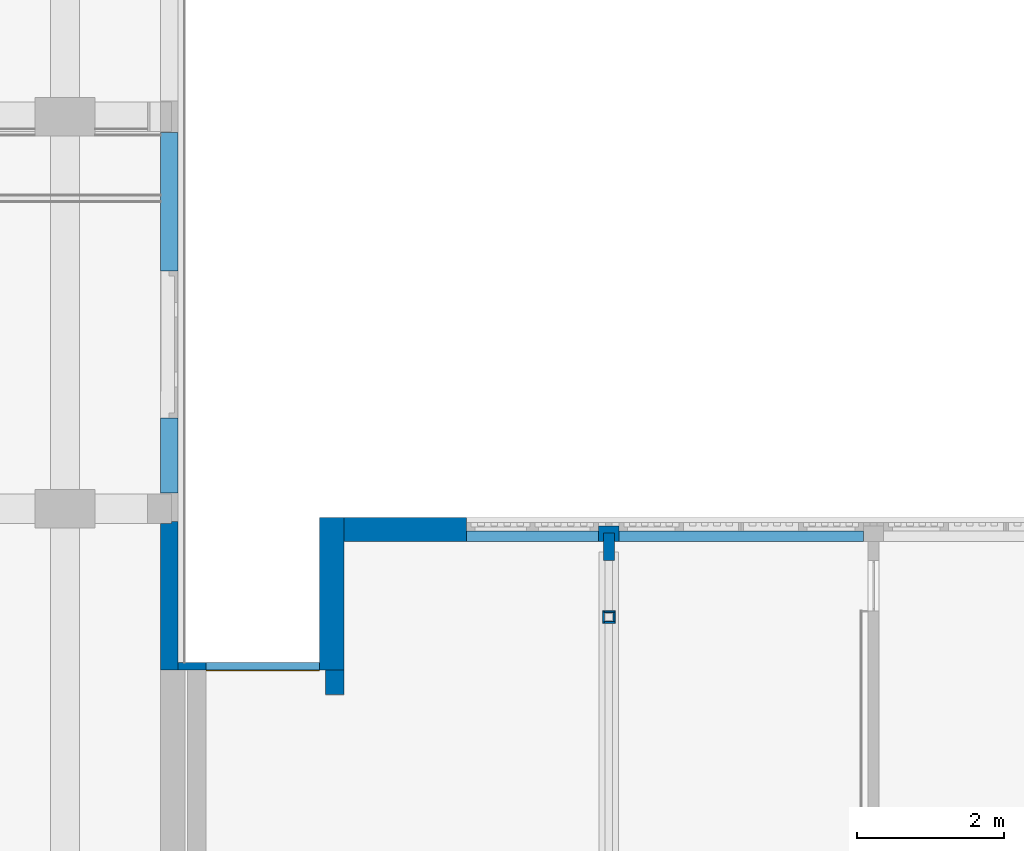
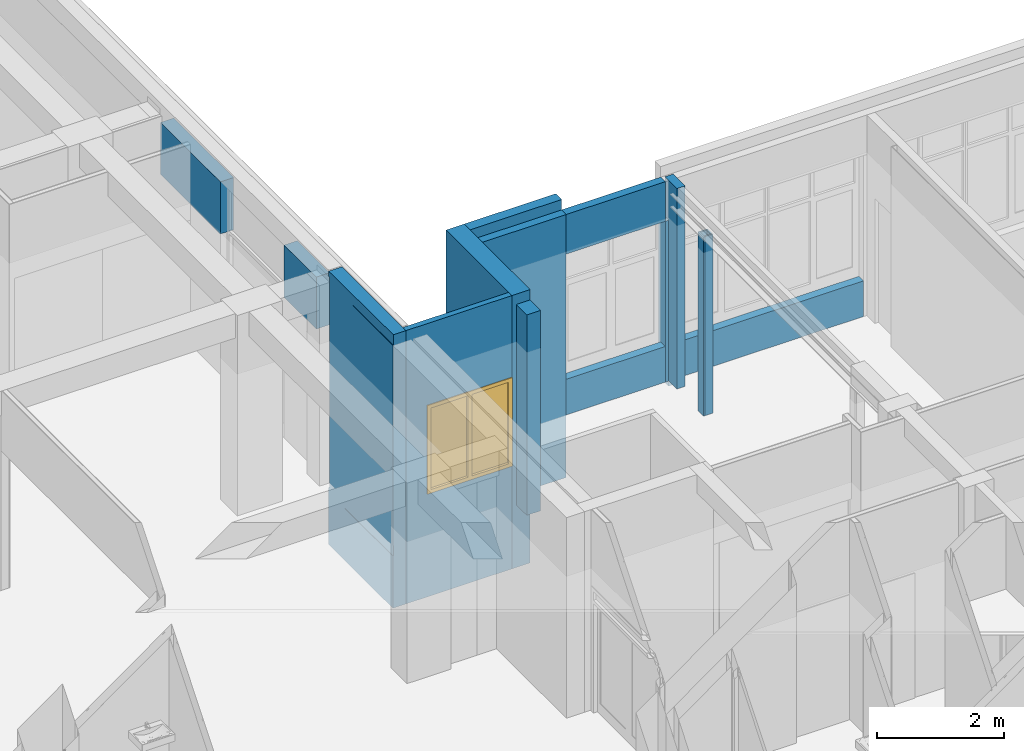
# One storey, part 89 of 135: 16 walls, 1 window, 1 opening.
"""IFC2X3 building model written with IfcOpenShell, lengths in millimetres."""

from ifc_helpers import new_model, entity, si_unit, converted_unit, derived_unit, money_unit, direction, frame, origin_with_axes, place, context, subcontext, project, spatial, open_shell, faceted_brep, surface_model, material, type_object, element, fill, save


model = new_model("IFC2X3")

# Units and contexts
model_context = context("Model", 3, precision=0.01, world=origin_with_axes(), true_north=direction((0.0, 1.0)))
body_context = subcontext(model_context, "Body", "Model", "MODEL_VIEW")
ifc_project = project(units=[si_unit("LENGTHUNIT", "METRE", prefix="MILLI"), si_unit("AREAUNIT", "SQUARE_METRE"), si_unit("VOLUMEUNIT", "CUBIC_METRE"), converted_unit("PLANEANGLEUNIT", "DEGREE", entity("IfcPlaneAngleMeasure", 0.0174532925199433), si_unit("PLANEANGLEUNIT", "RADIAN"), dimensions=[0, 0, 0, 0, 0, 0, 0]), money_unit("EUR"), converted_unit("TIMEUNIT", "Year", entity("IfcTimeMeasure", 31557600.0), si_unit("TIMEUNIT", "SECOND"), dimensions=[0, 0, 1, 0, 0, 0, 0]), si_unit("MASSUNIT", "GRAM", prefix="KILO"), si_unit("THERMODYNAMICTEMPERATUREUNIT", "DEGREE_CELSIUS"), si_unit("LUMINOUSINTENSITYUNIT", "LUMEN"), si_unit("ENERGYUNIT", "JOULE", prefix="MEGA"), derived_unit("THERMALCONDUCTANCEUNIT", [(si_unit("POWERUNIT", "WATT"), 1), (si_unit("LENGTHUNIT", "METRE"), -1), (si_unit("THERMODYNAMICTEMPERATUREUNIT", "KELVIN"), -1)]), derived_unit("SPECIFICHEATCAPACITYUNIT", [(si_unit("ENERGYUNIT", "JOULE"), 1), (si_unit("MASSUNIT", "GRAM", prefix="KILO"), -1), (si_unit("THERMODYNAMICTEMPERATUREUNIT", "KELVIN"), -1)]), derived_unit("MASSDENSITYUNIT", [(si_unit("MASSUNIT", "GRAM", prefix="KILO"), 1), (si_unit("VOLUMEUNIT", "CUBIC_METRE"), -1)])], contexts=[model_context])

# Site, building, storey
site_placement = place(None, origin_with_axes())
site = spatial("IfcSite", under=ifc_project, at=site_placement, Name="Site", CompositionType="ELEMENT")
building_placement = place(site_placement, origin_with_axes())
building = spatial("IfcBuilding", under=site, at=building_placement, Name="Naam gebouw", CompositionType="ELEMENT")
storey_placement = place(building_placement, origin_with_axes())
storey = spatial("IfcBuildingStorey", under=building, at=storey_placement, Name="Begane grond N", CompositionType="ELEMENT", Elevation=0.0)

# Wall
ifc_material_1 = material(Name="ALG - CONSTRUCTIEF")
wall_type_1 = type_object("IfcWallType", Name="ALG - CONSTRUCTIEF 150", PredefinedType="NOTDEFINED")
wall_1_placement = place(storey_placement, frame((36000.0, 27250.91242510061, -100.0), z_axis=(0.0, 0.0, 1.0), x_axis=(0.0, 1.0, 0.0)))
element("IfcWall", 1, at=wall_1_placement, inside=storey, type_object=wall_type_1, material=ifc_material_1, Name="_Wand-x", context=body_context, shape_type="Brep", body=[
    faceted_brep([(375.0, 75.00000000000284, 0.0), (375.0, 75.00000000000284, 3950.0), (375.0, -75.00000000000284, 3950.0), (375.0, -75.00000000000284, 0.0), (0.0, 75.00000000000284, 100.0), (0.0, 75.00000000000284, 3950.0), (255.0000000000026, 75.00000000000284, 0.0), (255.0000000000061, 75.00000000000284, 100.0), (0.0, -75.00000000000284, 3950.0), (0.0, -75.00000000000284, 100.0), (255.0000000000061, -75.00000000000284, 100.0), (255.0000000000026, -75.00000000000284, 0.0)], [[[0, 1, 2, 3]], [[4, 5, 1, 0, 6, 7]], [[5, 8, 2, 1]], [[3, 2, 8, 9, 10, 11]], [[3, 11, 6, 0]], [[9, 8, 5, 4]], [[6, 11, 10, 7]], [[7, 10, 9, 4]]]),
])

# Wall, opening, window
wall_type_2 = type_object("IfcWallType", Name="ALG - CONSTRUCTIEF 100", PredefinedType="NOTDEFINED")
wall_2_placement = place(storey_placement, frame((32399.99999999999, 25760.89702607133, -1200.0), z_axis=(0.0, 0.0, 1.0), x_axis=(-1.0, 0.0, 0.0)))
wall_2 = element("IfcWall", 2, at=wall_2_placement, inside=storey, type_object=wall_type_2, material=ifc_material_1, Name="_Wand-x", context=body_context, shape_type="Brep", body=[
    faceted_brep([(329.9999999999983, 0.0, 3683.5), (329.9999999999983, -100.0000000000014, 3683.5), (329.9999999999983, -100.0000000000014, 5250.000000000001), (329.9999999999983, 0.0, 5250.000000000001), (1875.0, -100.0000000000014, 3683.5), (1875.0, 0.0, 3683.5), (1875.0, -100.0000000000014, 1983.000000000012), (329.9999999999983, -100.0000000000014, 1983.000000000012), (329.9999999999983, -100.0000000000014, 0.0), (2253.999999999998, -100.0000000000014, 0.0), (2253.999999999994, -100.0000000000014, 5250.000000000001), (2253.999999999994, 0.0, 5250.000000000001), (2253.999999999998, 0.0, 1200.0), (2253.999999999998, 0.0, 0.0), (329.9999999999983, 0.0, 0.0), (329.9999999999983, 0.0, 1983.000000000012), (1875.0, 0.0, 1983.000000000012)], [[[0, 1, 2, 3]], [[4, 1, 0, 5]], [[6, 7, 8, 9, 10, 2, 1, 4]], [[2, 10, 11, 3]], [[5, 0, 3, 11, 12, 13, 14, 15, 16]], [[6, 4, 5, 16]], [[15, 7, 6, 16]], [[7, 15, 14, 8]], [[14, 13, 9, 8]], [[10, 9, 13, 12, 11]]]),
])
opening_placement = place(wall_2_placement, frame((1102.499999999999, 0.0, 1983.000000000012), z_axis=(0.0, 0.0, 1.0), x_axis=(1.0, 0.0, 0.0)))
opening = element("IfcOpeningElement", 3, at=opening_placement, cuts=wall_2, Name="_Merk-004", context=body_context, shape_type="Brep", body=[
    faceted_brep([(772.5000000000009, 1.000000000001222, 1700.499999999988), (772.5000000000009, 1.000000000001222, 0.0), (-772.5000000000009, 1.000000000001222, 0.0), (-772.5000000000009, 1.000000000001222, 1700.499999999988), (772.5000000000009, -101.0000000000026, 1700.499999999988), (772.5000000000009, -101.0000000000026, 0.0), (-772.5000000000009, -101.0000000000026, 0.0), (-772.5000000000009, -101.0000000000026, 1700.499999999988)], [[[0, 1, 2, 3]], [[4, 5, 1, 0]], [[5, 6, 2, 1]], [[6, 7, 3, 2]], [[7, 4, 0, 3]], [[6, 5, 4, 7]]]),
])
window_style = type_object("IfcWindowStyle", Name="R2 bl ol 26", ConstructionType="NOTDEFINED", OperationType="DOUBLE_PANEL_VERTICAL", ParameterTakesPrecedence=False, Sizeable=False)
window_placement = place(opening_placement, frame((-772.5000000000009, 0.0, 0.0), z_axis=(0.0, 0.0, 1.0), x_axis=(1.0, 0.0, 0.0)))
window = element("IfcWindow", 4, at=window_placement, inside=storey, type_object=window_style, Name="_Merk-004", ObjectType="WINDOW", OverallHeight=1700.5, OverallWidth=1545.0, context=body_context, shape_type="SurfaceModel", body=[
    faceted_brep([(1478.000000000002, -100.0000000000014, 1633.499999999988), (1545.000000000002, -100.0000000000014, 1633.499999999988), (1545.000000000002, 13.99999999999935, 1633.499999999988), (1478.000000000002, 13.99999999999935, 1633.499999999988), (1478.000000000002, -100.0000000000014, 66.99999999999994), (1545.000000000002, -100.0000000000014, 66.99999999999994), (1545.000000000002, 13.99999999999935, 66.99999999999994), (1478.000000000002, 13.99999999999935, 66.99999999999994)], [[[0, 1, 2, 3]], [[0, 4, 5, 1]], [[1, 5, 6, 2]], [[3, 2, 6, 7]], [[4, 0, 3, 7]], [[5, 4, 7, 6]]]),
    faceted_brep([(67.00000000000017, -100.0000000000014, 66.99999999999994), (0.0, -100.0000000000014, 66.99999999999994), (0.0, 13.99999999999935, 66.99999999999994), (67.00000000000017, 13.99999999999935, 66.99999999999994), (67.00000000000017, -100.0000000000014, 1633.499999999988), (0.0, -100.0000000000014, 1633.499999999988), (0.0, 13.99999999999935, 1633.499999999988), (67.00000000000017, 13.99999999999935, 1633.499999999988)], [[[0, 1, 2, 3]], [[0, 4, 5, 1]], [[1, 5, 6, 2]], [[3, 2, 6, 7]], [[4, 0, 3, 7]], [[5, 4, 7, 6]]]),
    faceted_brep([(806.0000000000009, -100.0000000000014, 66.99999999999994), (739.0000000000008, -100.0000000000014, 66.99999999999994), (739.0000000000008, 13.99999999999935, 66.99999999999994), (806.0000000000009, 13.99999999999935, 66.99999999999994), (806.0000000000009, -100.0000000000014, 1633.499999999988), (739.0000000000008, -100.0000000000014, 1633.499999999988), (739.0000000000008, 13.99999999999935, 1633.499999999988), (806.0000000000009, 13.99999999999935, 1633.499999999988)], [[[0, 1, 2, 3]], [[0, 4, 5, 1]], [[1, 5, 6, 2]], [[3, 2, 6, 7]], [[4, 0, 3, 7]], [[5, 4, 7, 6]]]),
    faceted_brep([(1478.000000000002, -100.0000000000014, 66.99999999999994), (1545.000000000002, -100.0000000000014, 66.99999999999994), (1545.000000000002, 13.99999999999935, 66.99999999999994), (1478.000000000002, 13.99999999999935, 66.99999999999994), (806.0000000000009, -100.0000000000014, 66.99999999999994), (739.0000000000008, -100.0000000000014, 66.99999999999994), (67.00000000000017, -100.0000000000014, 66.99999999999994), (0.0, -100.0000000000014, 66.99999999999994), (0.0, -100.0000000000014, 0.0), (1545.000000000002, -100.0000000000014, 0.0), (1545.000000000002, 13.99999999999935, 0.0), (0.0, 13.99999999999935, 0.0), (0.0, 13.99999999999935, 66.99999999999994), (67.00000000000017, 13.99999999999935, 66.99999999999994), (739.0000000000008, 13.99999999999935, 66.99999999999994), (806.0000000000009, 13.99999999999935, 66.99999999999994)], [[[0, 1, 2, 3]], [[0, 4, 5, 6, 7, 8, 9, 1]], [[1, 9, 10, 2]], [[3, 2, 10, 11, 12, 13, 14, 15]], [[4, 0, 3, 15]], [[5, 4, 15, 14]], [[6, 5, 14, 13]], [[7, 6, 13, 12]], [[8, 7, 12, 11]], [[9, 8, 11, 10]]]),
    faceted_brep([(806.0000000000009, -100.0000000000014, 1633.499999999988), (739.0000000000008, -100.0000000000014, 1633.499999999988), (739.0000000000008, 13.99999999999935, 1633.499999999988), (806.0000000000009, 13.99999999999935, 1633.499999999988), (1478.000000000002, -100.0000000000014, 1633.499999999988), (1545.000000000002, -100.0000000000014, 1633.499999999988), (1545.000000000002, -100.0000000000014, 1700.499999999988), (0.0, -100.0000000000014, 1700.499999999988), (0.0, -100.0000000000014, 1633.499999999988), (67.00000000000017, -100.0000000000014, 1633.499999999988), (67.00000000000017, 13.99999999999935, 1633.499999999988), (0.0, 13.99999999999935, 1633.499999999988), (0.0, 13.99999999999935, 1700.499999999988), (1545.000000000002, 13.99999999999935, 1700.499999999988), (1545.000000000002, 13.99999999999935, 1633.499999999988), (1478.000000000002, 13.99999999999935, 1633.499999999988)], [[[0, 1, 2, 3]], [[0, 4, 5, 6, 7, 8, 9, 1]], [[1, 9, 10, 2]], [[3, 2, 10, 11, 12, 13, 14, 15]], [[4, 0, 3, 15]], [[5, 4, 15, 14]], [[6, 5, 14, 13]], [[7, 6, 13, 12]], [[8, 7, 12, 11]], [[9, 8, 11, 10]]]),
    surface_model("IfcShellBasedSurfaceModel", [(1478.000000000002, -50.00000000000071, 66.99999999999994), (1478.000000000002, -50.00000000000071, 1633.499999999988), (806.0000000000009, -50.00000000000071, 1633.499999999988), (806.0000000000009, -50.00000000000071, 66.99999999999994)], [open_shell([[[0, 1, 2, 3]]])]),
    surface_model("IfcShellBasedSurfaceModel", [(1478.000000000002, -30.00000000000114, 66.99999999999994), (806.0000000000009, -30.00000000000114, 66.99999999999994), (806.0000000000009, -30.00000000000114, 1633.499999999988), (1478.000000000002, -30.00000000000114, 1633.499999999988)], [open_shell([[[0, 1, 2, 3]]])]),
    surface_model("IfcShellBasedSurfaceModel", [(739.0000000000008, -50.00000000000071, 66.99999999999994), (739.0000000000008, -50.00000000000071, 1633.499999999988), (67.00000000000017, -50.00000000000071, 1633.499999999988), (67.00000000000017, -50.00000000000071, 66.99999999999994)], [open_shell([[[0, 1, 2, 3]]])]),
    surface_model("IfcShellBasedSurfaceModel", [(739.0000000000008, -30.00000000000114, 66.99999999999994), (67.00000000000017, -30.00000000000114, 66.99999999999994), (67.00000000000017, -30.00000000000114, 1633.499999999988), (739.0000000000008, -30.00000000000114, 1633.499999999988)], [open_shell([[[0, 1, 2, 3]]])]),
])
fill(opening, window)

# Walls
wall_type_3 = type_object("IfcWallType", Name="ALG - CONSTRUCTIEF 240", PredefinedType="NOTDEFINED")
wall_3_placement = place(storey_placement, frame((29906.0, 27780.91242510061, -1200.0), z_axis=(0.0, 0.0, 1.0), x_axis=(0.0, -1.0, 0.0)))
element("IfcWall", 5, at=wall_3_placement, inside=storey, type_object=wall_type_3, material=ifc_material_1, Name="_Wand-x", context=body_context, shape_type="Brep", body=[
    faceted_brep([(0.0, 149.9999999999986, 5150.0), (0.0, 0.0, 5150.0), (0.0, 0.0, 5250.000000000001), (0.0, 240.000000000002, 5250.000000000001), (0.0, 239.9999999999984, 0.0), (0.0, 0.0, 0.0), (0.0, 0.0, 1000.0), (0.0, 0.0, 1100.0), (0.0, 149.9999999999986, 1100.0), (25.00000000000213, 0.1303475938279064, 5150.0), (25.00000000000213, 149.9999999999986, 5150.0), (25.00000000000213, 0.1303475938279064, 5050.000000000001), (2020.015399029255, 10.53216587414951, 5050.000000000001), (2020.015399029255, 10.53216587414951, 5250.000000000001), (2020.01539902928, 240.000000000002, 5250.000000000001), (2020.01539902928, 239.9999999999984, 1200.0), (2020.01539902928, 239.9999999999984, 0.0), (2020.01539902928, 0.0, 0.0), (2020.01539902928, 0.0, 1000.0), (25.00000000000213, 0.130347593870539, 1200.0), (25.00000000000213, 0.130347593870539, 1100.0), (2020.01539902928, 10.53216587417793, 1000.0), (2020.01539902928, 10.53216587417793, 1200.0), (25.00000000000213, 149.9999999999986, 1100.0), (25.00000000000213, 0.0, 5050.000000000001), (25.00000000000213, 0.0, 1200.0), (2020.01539902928, 0.0, 5050.000000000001), (2020.01539902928, 0.0, 1200.0)], [[[0, 1, 2, 3, 4, 5, 6, 7, 8]], [[9, 1, 0, 10]], [[1, 9, 11, 12, 13, 2]], [[13, 14, 3, 2]], [[15, 16, 4, 3, 14]], [[4, 16, 17, 5]], [[6, 5, 17, 18]], [[19, 20, 7, 6, 21, 22]], [[23, 8, 7, 20]], [[10, 0, 8, 23]], [[24, 11, 9, 10, 23, 20, 19, 25]], [[26, 12, 11, 24]], [[15, 14, 13, 12, 26, 27, 22, 21, 18, 17, 16]], [[18, 21, 6]], [[27, 25, 19, 22]], [[24, 25, 27, 26]]]),
])
wall_type_4 = type_object("IfcWallType", Name="ALG - CONSTRUCTIEF 330", PredefinedType="NOTDEFINED")
wall_4_placement = place(storey_placement, frame((32399.99999999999, 27505.91242510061, -1200.0), z_axis=(0.0, 0.0, 1.0), x_axis=(0.0, -1.0, 0.0)))
element("IfcWall", 6, at=wall_4_placement, inside=storey, type_object=wall_type_4, material=ifc_material_1, Name="_Wand-x", context=body_context, shape_type="Brep", body=[
    faceted_brep([(1745.015399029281, -329.9999999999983, 5250.000000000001), (1745.015399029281, 0.0, 5250.000000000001), (-329.9999999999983, 0.0, 5250.000000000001), (-329.9999999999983, -329.9999999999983, 5250.000000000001), (1745.015399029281, -329.9999999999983, 0.0), (1745.015399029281, 0.0, 0.0), (-329.9999999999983, 0.0, 0.0), (-329.9999999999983, -329.9999999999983, 0.0)], [[[0, 1, 2, 3]], [[1, 0, 4, 5]], [[1, 5, 6, 2]], [[7, 3, 2, 6]], [[4, 0, 3, 7]], [[5, 4, 7, 6]]]),
])
wall_5_placement = place(storey_placement, frame((34062.49999999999, 27505.91242510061, -1200.0), z_axis=(0.0, 0.0, 1.0), x_axis=(-1.0, 0.0, 0.0)))
element("IfcWall", 7, at=wall_5_placement, inside=storey, type_object=wall_type_4, material=ifc_material_1, Name="_Wand-x", context=body_context, shape_type="Brep", body=[
    faceted_brep([(1662.499999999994, -329.9999999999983, 5250.000000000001), (1662.500000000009, -145.9999999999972, 5250.000000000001), (0.0, -145.9999999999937, 5250.000000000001), (0.0, -329.9999999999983, 5250.000000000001), (1662.500000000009, 0.0, 5050.000000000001), (1662.500000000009, -145.9999999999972, 5050.000000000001), (1662.499999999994, -330.0000000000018, 0.0), (1662.499999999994, 0.0, 0.0), (0.0, -145.9999999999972, 5050.000000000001), (0.0, 0.0, 5050.000000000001), (0.0, 0.0, 0.0), (0.0, -329.9999999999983, 0.0)], [[[0, 1, 2, 3]], [[4, 5, 1, 0, 6, 7]], [[5, 8, 2, 1]], [[2, 8, 9, 10, 11, 3]], [[3, 11, 6, 0]], [[4, 9, 8, 5]], [[11, 10, 7, 6]], [[10, 9, 4, 7]]]),
])
wall_type_5 = type_object("IfcWallType", Name="ALG - CONSTRUCTIEF 250", PredefinedType="NOTDEFINED")
wall_6_placement = place(storey_placement, frame((32274.99999999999, 25430.91242510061, -100.0), z_axis=(0.0, 0.0, 1.0), x_axis=(0.0, 1.0, 0.0)))
element("IfcWall", 8, at=wall_6_placement, inside=storey, type_object=wall_type_5, material=ifc_material_1, Name="_Wand-x", context=body_context, shape_type="Brep", body=[
    faceted_brep([(329.9846009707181, 125.0, 100.0), (329.984600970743, 125.0, 3950.0), (329.984600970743, -124.9999999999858, 3950.0), (329.9846009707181, -125.0, 100.0), (0.0, 125.0, 100.0), (0.0, 125.0, 3950.0), (0.0, -125.0, 3950.0), (0.0, -125.0, 100.0)], [[[0, 1, 2, 3]], [[4, 5, 1, 0]], [[5, 6, 2, 1]], [[3, 2, 6, 7]], [[4, 0, 3, 7]], [[7, 6, 5, 4]]]),
])
wall_type_6 = type_object("IfcWallType", Name="ALG - CONSTRUCTIEF 146", PredefinedType="NOTDEFINED")
wall_7_placement = place(storey_placement, frame((35862.49999999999, 27505.91242510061, 3090.0), z_axis=(0.0, 0.0, 1.0), x_axis=(-1.0, 0.0, 0.0)))
element("IfcWall", 9, at=wall_7_placement, inside=storey, type_object=wall_type_6, material=ifc_material_1, Name="_Wand-x", context=body_context, shape_type="Brep", body=[
    faceted_brep([(0.0, -146.0000000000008, 760.0000000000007), (1800.000000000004, -146.0000000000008, 760.0000000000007), (1800.000000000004, 0.0, 760.0000000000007), (0.0, 0.0, 760.0000000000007), (0.0, -146.0000000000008, 0.0), (1800.000000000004, -146.0000000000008, 0.0), (1800.000000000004, 0.0, 0.0), (0.0, 0.0, 0.0)], [[[0, 1, 2, 3]], [[4, 5, 1, 0]], [[2, 1, 5, 6]], [[3, 2, 6, 7]], [[4, 0, 3, 7]], [[7, 6, 5, 4]]]),
])
wall_8_placement = place(storey_placement, frame((35862.49999999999, 27505.91242510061, 0.0), z_axis=(0.0, 0.0, 1.0), x_axis=(-1.0, 0.0, 0.0)))
element("IfcWall", 10, at=wall_8_placement, inside=storey, type_object=wall_type_6, material=ifc_material_1, Name="_Wand-x", context=body_context, shape_type="Brep", body=[
    faceted_brep([(0.0, -146.0000000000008, 685.2268951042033), (1800.000000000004, -146.0000000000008, 685.2268951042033), (1800.000000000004, 0.0, 685.2268951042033), (0.0, 0.0, 685.2268951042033), (0.0, -146.0000000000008, 0.0), (1800.000000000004, -146.0000000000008, 0.0), (1800.000000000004, 0.0, 0.0), (0.0, 0.0, 0.0)], [[[0, 1, 2, 3]], [[4, 5, 1, 0]], [[2, 1, 5, 6]], [[3, 2, 6, 7]], [[4, 0, 3, 7]], [[7, 6, 5, 4]]]),
])
wall_9_placement = place(storey_placement, frame((39462.5, 27505.91242510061, 0.0), z_axis=(0.0, 0.0, 1.0), x_axis=(-1.0, 0.0, 0.0)))
element("IfcWall", 11, at=wall_9_placement, inside=storey, type_object=wall_type_6, material=ifc_material_1, Name="_Wand-x", context=body_context, shape_type="Brep", body=[
    faceted_brep([(0.0, -146.0000000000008, 685.2268951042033), (3324.999999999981, -146.0000000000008, 685.2268951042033), (3324.999999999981, 0.0, 685.2268951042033), (0.0, 0.0, 685.2268951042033), (0.0, -146.0000000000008, 0.0), (3324.999999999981, -146.0000000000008, 0.0), (3324.999999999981, 0.0, 0.0), (0.0, 0.0, 0.0)], [[[0, 1, 2, 3]], [[4, 5, 1, 0]], [[2, 1, 5, 6]], [[3, 2, 6, 7]], [[4, 0, 3, 7]], [[7, 6, 5, 4]]]),
])
ifc_material_2 = material(Name="Gipsplaat")
wall_type_7 = type_object("IfcWallType", Name="Gipsplaat 25", PredefinedType="NOTDEFINED")
wall_10_placement = place(storey_placement, frame((35915.0, 26565.9124251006, 0.0), z_axis=(0.0, 0.0, 1.0), x_axis=(1.0, 0.0, 0.0)))
element("IfcWall", 12, at=wall_10_placement, inside=storey, type_object=wall_type_7, material=ifc_material_2, Name="_Wand-x", context=body_context, shape_type="Brep", body=[
    faceted_brep([(170.0000000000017, -24.99999999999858, 3439.999999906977), (170.0000000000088, 0.0, 3439.999999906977), (24.99999999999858, 0.0, 3439.999999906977), (24.99999999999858, -24.99999999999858, 3439.999999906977), (170.0000000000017, -24.99999999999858, 0.0), (170.0000000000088, 0.0, 0.0), (24.99999999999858, 0.0, 0.0), (24.99999999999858, -24.99999999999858, 0.0)], [[[0, 1, 2, 3]], [[1, 0, 4, 5]], [[1, 5, 6, 2]], [[7, 3, 2, 6]], [[4, 0, 3, 7]], [[5, 4, 7, 6]]]),
])
wall_11_placement = place(storey_placement, frame((35915.0, 26395.91242510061, 0.0), z_axis=(0.0, 0.0, 1.0), x_axis=(0.0, 1.0, 0.0)))
element("IfcWall", 13, at=wall_11_placement, inside=storey, type_object=wall_type_7, material=ifc_material_2, Name="_Wand-x", context=body_context, shape_type="Brep", body=[
    faceted_brep([(169.999999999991, -24.99999999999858, 3439.999999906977), (169.999999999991, 0.0, 3439.999999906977), (0.0, 0.0, 3439.999999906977), (0.0, -24.99999999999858, 3439.999999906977), (169.999999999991, -24.99999999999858, 0.0), (169.999999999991, 0.0, 0.0), (0.0, 0.0, 0.0), (0.0, -24.99999999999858, 0.0)], [[[0, 1, 2, 3]], [[1, 0, 4, 5]], [[1, 5, 6, 2]], [[7, 3, 2, 6]], [[4, 0, 3, 7]], [[5, 4, 7, 6]]]),
])
wall_12_placement = place(storey_placement, frame((36084.99999999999, 26395.9124251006, 0.0), z_axis=(0.0, 0.0, 1.0), x_axis=(0.0, 1.0, 0.0)))
element("IfcWall", 14, at=wall_12_placement, inside=storey, type_object=wall_type_7, material=ifc_material_2, Name="_Wand-x", context=body_context, shape_type="Brep", body=[
    faceted_brep([(145.0000000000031, 25.00000000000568, 0.0), (145.0000000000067, 0.0, 0.0), (24.99999999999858, 0.0, 0.0), (24.99999999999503, 24.99999999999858, 0.0), (145.0000000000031, 25.00000000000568, 3439.999999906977), (145.0000000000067, 0.0, 3439.999999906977), (24.99999999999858, 0.0, 3439.999999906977), (24.99999999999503, 24.99999999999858, 3439.999999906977)], [[[0, 1, 2, 3]], [[1, 0, 4, 5]], [[1, 5, 6, 2]], [[7, 3, 2, 6]], [[4, 0, 3, 7]], [[5, 4, 7, 6]]]),
])
wall_13_placement = place(storey_placement, frame((35915.0, 26395.91242510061, 0.0), z_axis=(0.0, 0.0, 1.0), x_axis=(1.0, 0.0, 0.0)))
element("IfcWall", 15, at=wall_13_placement, inside=storey, type_object=wall_type_7, material=ifc_material_2, Name="_Wand-x", context=body_context, shape_type="Brep", body=[
    faceted_brep([(169.9999999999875, 25.00000000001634, 0.0), (169.9999999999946, 0.0, 0.0), (24.99999999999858, 0.0, 0.0), (24.99999999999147, 25.00000000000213, 0.0), (169.9999999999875, 25.00000000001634, 3439.999999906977), (169.9999999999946, 0.0, 3439.999999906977), (24.99999999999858, 0.0, 3439.999999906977), (24.99999999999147, 25.00000000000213, 3439.999999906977)], [[[0, 1, 2, 3]], [[1, 0, 4, 5]], [[1, 5, 6, 2]], [[7, 3, 2, 6]], [[4, 0, 3, 7]], [[5, 4, 7, 6]]]),
])
ifc_material_3 = material(Name="ALG - GEVEL")
wall_type_8 = type_object("IfcWallType", Name="ALG - GEVEL 260", PredefinedType="NOTDEFINED")
wall_14_placement = place(storey_placement, frame((36137.49999999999, 27765.91242510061, 0.0), z_axis=(0.0, 0.0, 1.0), x_axis=(-1.0, 0.0, 0.0)))
element("IfcWall", 16, at=wall_14_placement, inside=storey, type_object=wall_type_8, material=ifc_material_3, Name="_Wand-x", context=body_context, shape_type="Brep", body=[
    faceted_brep([(0.0, 43.99999999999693, 3090.000000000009), (0.0, 43.99999999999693, 0.0), (275.0000000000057, 43.99999999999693, 0.0), (275.0000000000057, 43.99999999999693, 3090.000000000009), (0.0, 260.0000000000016, 0.0), (0.0, 260.0000000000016, 3090.0), (275.0000000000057, 260.0000000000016, 0.0), (275.0000000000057, 260.0000000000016, 3090.0)], [[[0, 1, 2, 3]], [[4, 1, 0, 5]], [[2, 1, 4, 6]], [[7, 3, 2, 6]], [[0, 3, 7, 5]], [[4, 5, 7, 6]]]),
])
ifc_material_4 = material(Name="Steen - Betonblok")
wall_type_9 = type_object("IfcWallType", Name="Steen - Betonblok 240", PredefinedType="NOTDEFINED")
wall_15_placement = place(storey_placement, frame((30145.99999999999, 29185.91242510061, 2700.0), z_axis=(0.0, 0.0, 1.0), x_axis=(0.0, -1.0, 0.0)))
element("IfcWall", 17, at=wall_15_placement, inside=storey, type_object=wall_type_9, material=ifc_material_4, Name="_Wand-x", context=body_context, shape_type="Brep", body=[
    faceted_brep([(0.0, -239.9999999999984, 1000.0), (1015.000000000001, -239.9999999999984, 1000.0), (1015.000000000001, 0.0, 1000.0), (0.0, 0.0, 1000.0), (0.0, -239.9999999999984, 0.0), (1015.000000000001, -239.9999999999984, 0.0), (1015.000000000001, 0.0, 0.0), (0.0, 0.0, 0.0)], [[[0, 1, 2, 3]], [[4, 5, 1, 0]], [[2, 1, 5, 6]], [[3, 2, 6, 7]], [[4, 0, 3, 7]], [[7, 6, 5, 4]]]),
])
wall_16_placement = place(storey_placement, frame((30145.99999999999, 33070.9124251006, 2700.0), z_axis=(0.0, 0.0, 1.0), x_axis=(0.0, -1.0, 0.0)))
element("IfcWall", 18, at=wall_16_placement, inside=storey, type_object=wall_type_9, material=ifc_material_4, Name="_Wand-x", context=body_context, shape_type="Brep", body=[
    faceted_brep([(0.0, -239.9999999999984, 1000.0), (1884.999999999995, -239.9999999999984, 1000.0), (1884.999999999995, 0.0, 1000.0), (0.0, 0.0, 1000.0), (0.0, -239.9999999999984, 0.0), (1884.999999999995, -240.000000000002, 0.0), (1884.999999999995, 0.0, 0.0), (0.0, 0.0, 0.0)], [[[0, 1, 2, 3]], [[4, 5, 1, 0]], [[2, 1, 5, 6]], [[3, 2, 6, 7]], [[4, 0, 3, 7]], [[7, 6, 5, 4]]]),
])

save(model, "model.ifc")
